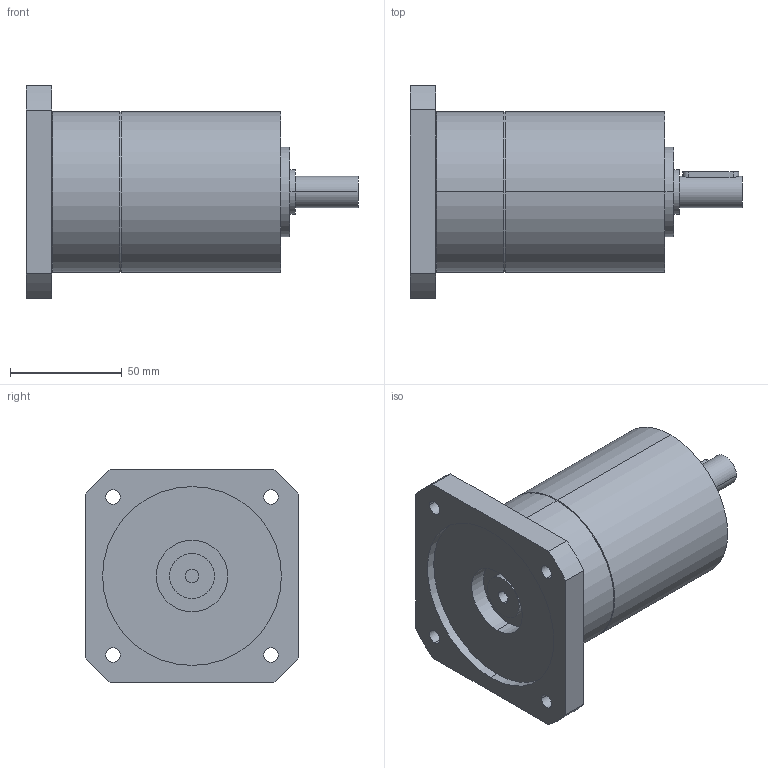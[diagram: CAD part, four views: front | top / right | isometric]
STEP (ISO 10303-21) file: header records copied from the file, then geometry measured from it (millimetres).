
FILE_DESCRIPTION(('CoCreate Modeling STEP Export'),'2;1');
FILE_NAME('GPT75_ig-9-12-16-20-25-28-35-40-50-70-100_14_B14T_6_P07.stp','2014-08-27T13:22:27',(''),(''),'CoCreate Modeling STEP processor for AP214 (Solid Model)','CoCreate Modeling 16.00C 25-Feb-2009 (C) Parametric Technology GmbH','');
FILE_SCHEMA(('AUTOMOTIVE_DESIGN { 1 0 10303 214 1 1 1 1 }'));
Length unit declared in the file: millimetre
Products named in the file (2): GPT75_ig-9-12-16-20-25-28-35-40-50-70-100_14_B14T_6_P07
Assembly tree (1 placements, depth 2):
  GPT75_ig-9-12-16-20-25-28-35-40-50-70-100_14_B14T_6_P07
    GPT75_ig-9-12-16-20-25-28-35-40-50-70-100_14_B14T_6_P07
Bounding box: 148.5 x 95 x 95 mm (x, y, z)
Volume: 500476 mm3; surface area: 51296 mm2
Topology: 1 solids, 1 shells, 69 faces, 162 edges, 109 vertices
Faces by surface type: cylinder 42, plane 23, cone 4
Entity records: 2141 total; most frequent: CARTESIAN_POINT 660, ORIENTED_EDGE 324, DIRECTION 262, EDGE_CURVE 162, VERTEX_POINT 109, AXIS2_PLACEMENT_3D 99, EDGE_LOOP 91, FACE_OUTER_BOUND 69
